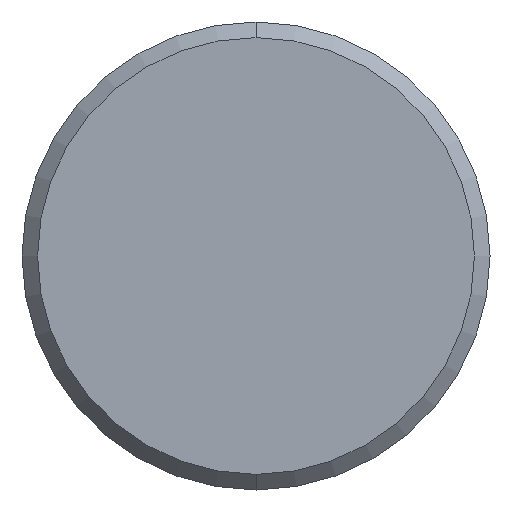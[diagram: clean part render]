
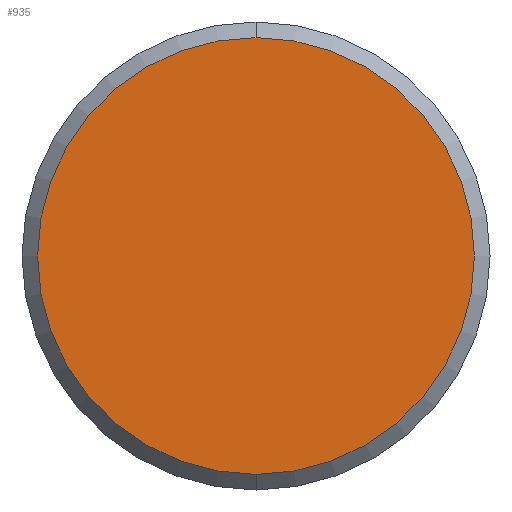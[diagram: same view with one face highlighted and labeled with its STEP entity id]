
A CAD part, front view. The second image highlights one B-rep face of the part: STEP entity #935.
In plain terms, the highlighted planar face has unit normal (0, -1, 0).
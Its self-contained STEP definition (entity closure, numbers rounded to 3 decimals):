
#134 = EDGE_LOOP ( 'NONE', ( #354, #426 ) ) ;
#248 = DIRECTION ( 'NONE',  ( 0., 1., 0. ) ) ;
#258 = DIRECTION ( 'NONE',  ( 0., 0., 1. ) ) ;
#271 = CIRCLE ( 'NONE', #1182, 14. ) ;
#309 = EDGE_CURVE ( 'NONE', #829, #324, #271, .T. ) ;
#324 = VERTEX_POINT ( 'NONE', #350 ) ;
#328 = AXIS2_PLACEMENT_3D ( 'NONE', #770, #374, #772 ) ;
#350 = CARTESIAN_POINT ( 'NONE',  ( 0., 0., -14. ) ) ;
#354 = ORIENTED_EDGE ( 'NONE', *, *, #1206, .F. ) ;
#374 = DIRECTION ( 'NONE',  ( 0., 1., 0. ) ) ;
#426 = ORIENTED_EDGE ( 'NONE', *, *, #309, .F. ) ;
#436 = DIRECTION ( 'NONE',  ( 0., 1., 0. ) ) ;
#449 = AXIS2_PLACEMENT_3D ( 'NONE', #1195, #436, #258 ) ;
#566 = PLANE ( 'NONE',  #328 ) ;
#747 = CARTESIAN_POINT ( 'NONE',  ( 0., 0., 14. ) ) ;
#770 = CARTESIAN_POINT ( 'NONE',  ( 0., 0., 0. ) ) ;
#772 = DIRECTION ( 'NONE',  ( 0., 0., 1. ) ) ;
#816 = DIRECTION ( 'NONE',  ( 0., 0., 1. ) ) ;
#829 = VERTEX_POINT ( 'NONE', #747 ) ;
#935 = ADVANCED_FACE ( 'NONE', ( #1016 ), #566, .F. ) ;
#1015 = CIRCLE ( 'NONE', #449, 14. ) ;
#1016 = FACE_OUTER_BOUND ( 'NONE', #134, .T. ) ;
#1175 = CARTESIAN_POINT ( 'NONE',  ( 0., 0., 0. ) ) ;
#1182 = AXIS2_PLACEMENT_3D ( 'NONE', #1175, #248, #816 ) ;
#1195 = CARTESIAN_POINT ( 'NONE',  ( 0., 0., 0. ) ) ;
#1206 = EDGE_CURVE ( 'NONE', #324, #829, #1015, .T. ) ;
